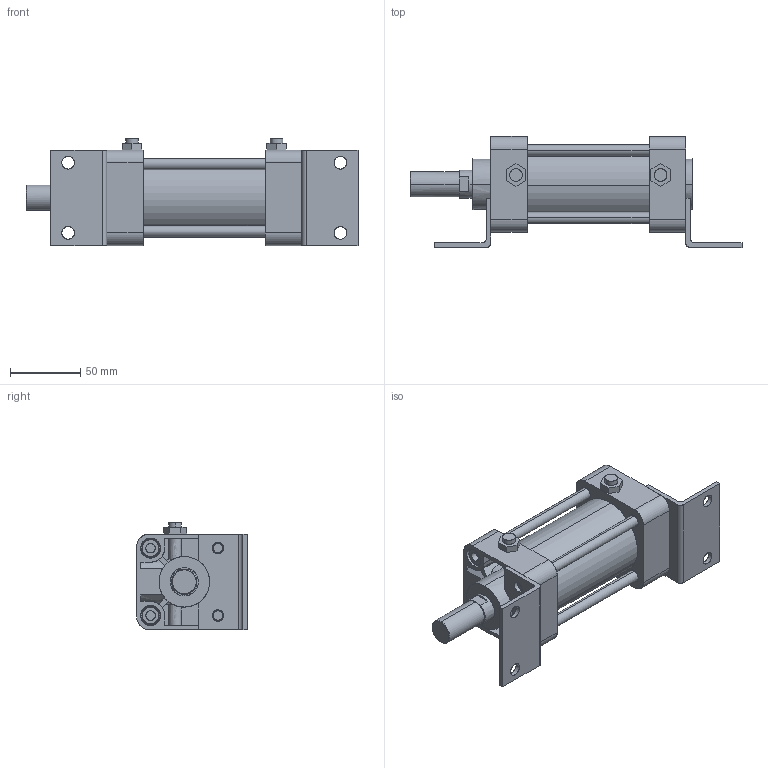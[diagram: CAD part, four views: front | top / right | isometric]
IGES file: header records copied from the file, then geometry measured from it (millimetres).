
Start section: SolidWorks IGES file using analytic representation for surfaces
Global section: file name: C:\Users\Toshiba\Desktop\KG2-50-50-L.IGS; native system: SolidWorks 2014; preprocessor: SolidWorks 2014; author: Toshiba; date: 160401.161231; units: millimetre
Bounding box: 236.5 x 79 x 76.3 mm (x, y, z)
Surface area: 119344.5 mm2 (no closed solid volume)
Topology: 0 solids, 0 shells, 365 faces, 5744 edges, 5740 vertices
Faces by surface type: bspline 191, revolution 174
